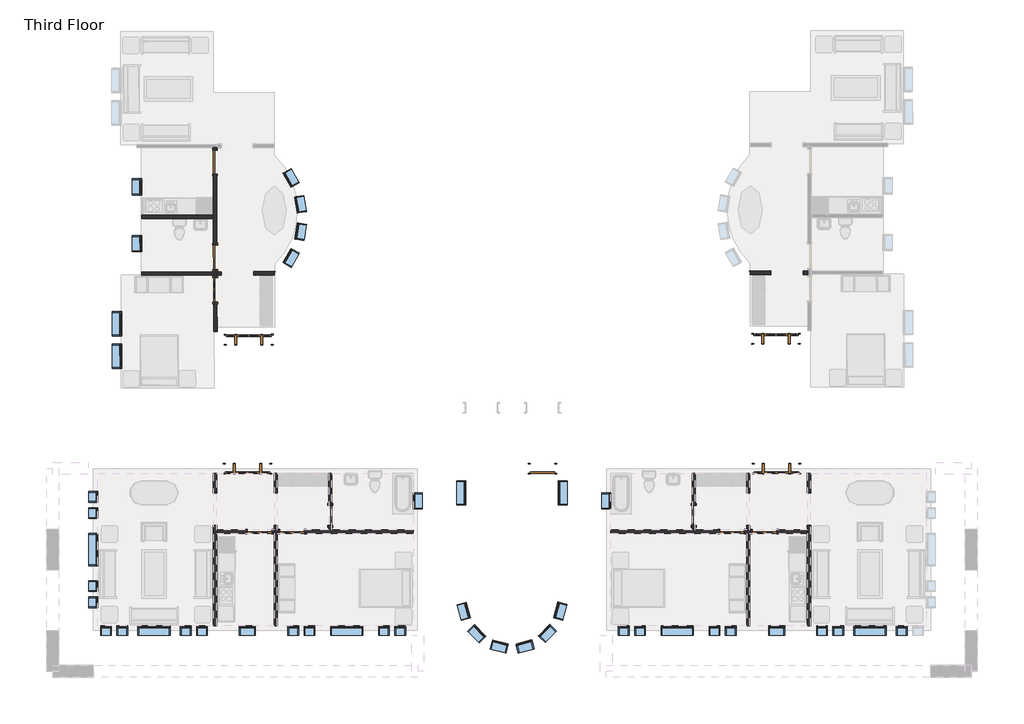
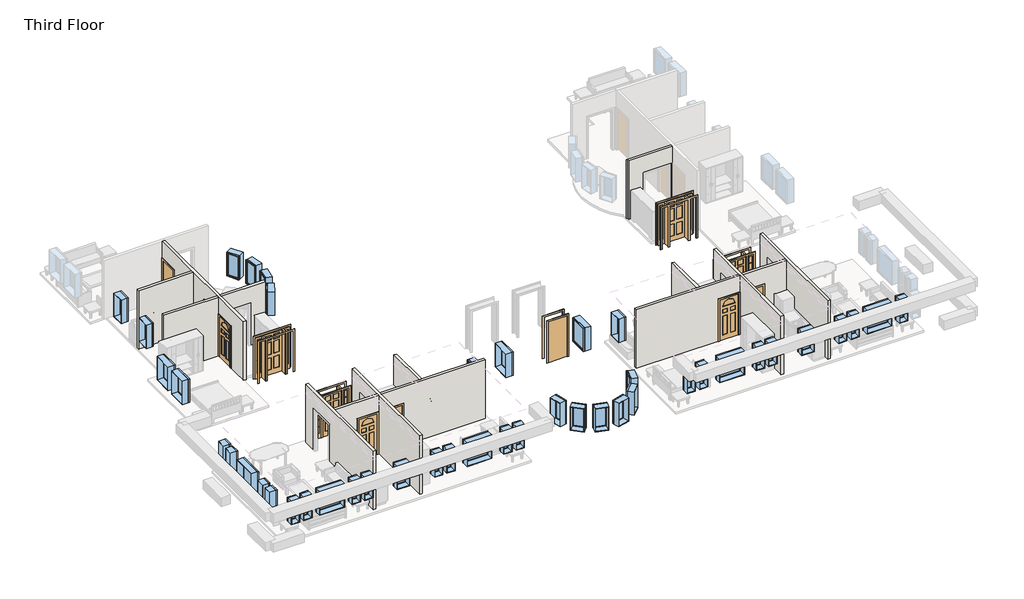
# One storey, part 1 of 5: 44 windows, 15 walls, 14 doors.
"""IFC4 building model written with IfcOpenShell, lengths in millimetres."""

from ifc_helpers import new_model, si_unit, frame, origin, place, context, project, spatial, polyline, circle_curve, outline, extrude, faceted_brep, transform, mapped, element, save
from ifc_brep_helpers import plane_surface, cylinder_surface, advanced_brep
from components import door_829da954, door_2e3b4da2, door_4d6c7550, door_e36758a9, door_cc5399a4, door_a1797ceb, door_a3eb833a, door_dba5aa2e, door_ffdb1193, window_da97879f, window_d61ef850, window_60baf983, window_ed80354a, window_0e2fc6ce, window_6eb97611, window_d89bf842

model = new_model("IFC4")

# Units and contexts
model_context = context("Model", 3, world=origin())
ifc_project = project(units=[si_unit("LENGTHUNIT", "METRE", prefix="MILLI")], contexts=[model_context])

# Site, building, storey
site = spatial("IfcSite", under=ifc_project)
building = spatial("IfcBuilding", under=site)
storey = spatial("IfcBuildingStorey", under=building, Name="Third Floor", Elevation=6096.0)

# Doors
placement = place(None, origin())
door_shape = door_829da954(model_context)
element("IfcDoor", 1, ObjectType="Single-Decorative 2 : 36\" x 84\"", at=placement, inside=storey, context=model_context, shape_type="MappedRepresentation", body=[
    mapped(door_shape, transform((-6669.0589563, -30331.8808133, 6096.0), x_axis=(1.0, 0.0, 0.0), y_axis=(0.0, 1.0, 0.0), z_axis=(0.0, 0.0, 1.0))),
])
element("IfcDoor", 2, ObjectType="Single-Decorative 2 : 36\" x 84\"", at=placement, inside=storey, context=model_context, shape_type="MappedRepresentation", body=[
    mapped(door_shape, transform((-24420.4839563, -30331.8808133, 6096.0), x_axis=(1.0, 0.0, 0.0), y_axis=(0.0, 1.0, 0.0), z_axis=(0.0, 0.0, 1.0))),
])
door_2_shape = door_2e3b4da2(model_context)
element("IfcDoor", 3, ObjectType="Single-Decorative 2 : 36\" x 84\"", at=placement, inside=storey, context=model_context, shape_type="MappedRepresentation", body=[
    mapped(door_2_shape, transform((-5449.8589563, -30331.8808133, 6096.0), x_axis=(-1.0, 0.0, 0.0), y_axis=(0.0, -1.0, 0.0), z_axis=(0.0, 0.0, 1.0))),
])
element("IfcDoor", 4, ObjectType="Single-Decorative 2 : 36\" x 84\"", at=placement, inside=storey, context=model_context, shape_type="MappedRepresentation", body=[
    mapped(door_2_shape, transform((-23201.2839563, -30331.8808133, 6096.0), x_axis=(-1.0, 0.0, 0.0), y_axis=(0.0, -1.0, 0.0), z_axis=(0.0, 0.0, 1.0))),
])
element("IfcDoor", 5, ObjectType="Single-Decorative 2 : 36\" x 84\"", at=placement, inside=storey, context=model_context, shape_type="MappedRepresentation", body=[
    mapped(door_2_shape, transform((-26083.9222963, -21236.9710395, 6096.0), x_axis=(-0.002276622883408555, 0.9999974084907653, 0.0), y_axis=(-0.9999974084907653, -0.002276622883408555, 0.0), z_axis=(0.0, 0.0, 1.0))),
])
door_3_shape = door_4d6c7550(model_context)
element("IfcDoor", 6, ObjectType="Single-Flush : 30\" x 84\"", at=placement, inside=storey, context=model_context, shape_type="MappedRepresentation", body=[
    mapped(door_3_shape, transform((-21764.5964563, -29722.2808133, 6096.0), x_axis=(0.0, -1.0, 0.0), y_axis=(1.0, 0.0, 0.0), z_axis=(0.0, 0.0, 1.0))),
])
door_4_shape = door_e36758a9(model_context)
element("IfcDoor", 7, ObjectType="Single-Flush : 30\" x 84\"", at=placement, inside=storey, context=model_context, shape_type="MappedRepresentation", body=[
    mapped(door_4_shape, transform((-8105.7464563, -29722.2808133, 6096.0), x_axis=(0.0, -1.0, 0.0), y_axis=(1.0, 0.0, 0.0), z_axis=(0.0, 0.0, 1.0))),
])
door_5_shape = door_cc5399a4(model_context)
element("IfcDoor", 8, ObjectType="Single-Flush : 36\" x 84\"", at=placement, inside=storey, context=model_context, shape_type="MappedRepresentation", body=[
    mapped(door_5_shape, transform((-13792.1714563, -27958.5683133, 6096.0), x_axis=(1.0, 0.0, 0.0), y_axis=(0.0, 1.0, 0.0), z_axis=(0.0, 0.0, 1.0))),
])
door_6_shape = door_a1797ceb(model_context)
element("IfcDoor", 9, ObjectType="Single-Flush : 36\" x 84\"", at=placement, inside=storey, context=model_context, shape_type="MappedRepresentation", body=[
    mapped(door_6_shape, transform((-26094.8442239, -16439.5584721, 6096.0), x_axis=(-0.002276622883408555, 0.9999974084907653, 0.0), y_axis=(-0.9999974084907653, -0.002276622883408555, 0.0), z_axis=(0.0, 0.0, 1.0))),
])
door_7_shape = door_a3eb833a(model_context)
element("IfcDoor", 10, ObjectType="Single-Flush : 36\" x 84\"", at=placement, inside=storey, context=model_context, shape_type="MappedRepresentation", body=[
    mapped(door_7_shape, transform((-26086.697955, -20017.7741991, 6096.0), x_axis=(0.002276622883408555, -0.9999974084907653, 0.0), y_axis=(0.9999974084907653, 0.002276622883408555, 0.0), z_axis=(0.0, 0.0, 1.0))),
])
door_8_shape = door_dba5aa2e(model_context)
element("IfcDoor", 11, ObjectType="Single-Raised Panel with Sidelights : 36\" x 84\"", at=placement, inside=storey, context=model_context, shape_type="MappedRepresentation", body=[
    mapped(door_8_shape, transform((-24877.6839563, -27958.5683133, 6096.0), x_axis=(1.0, 0.0, 0.0), y_axis=(0.0, 1.0, 0.0), z_axis=(0.0, 0.0, 1.0))),
])
element("IfcDoor", 12, ObjectType="Single-Raised Panel with Sidelights : 36\" x 84\"", at=placement, inside=storey, context=model_context, shape_type="MappedRepresentation", body=[
    mapped(door_8_shape, transform((-5011.6902332, -23083.5536869, 6096.0), x_axis=(-0.9999997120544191, -0.0007588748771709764, 0.0), y_axis=(0.0007588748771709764, -0.9999997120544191, 0.0), z_axis=(0.0, 0.0, 1.0))),
])
door_9_shape = door_ffdb1193(model_context)
element("IfcDoor", 13, ObjectType="Single-Raised Panel with Sidelights : 36\" x 84\"", at=placement, inside=storey, context=model_context, shape_type="MappedRepresentation", body=[
    mapped(door_9_shape, transform((-4992.6589563, -27958.5683133, 6096.0), x_axis=(-1.0, 0.0, 0.0), y_axis=(0.0, -1.0, 0.0), z_axis=(0.0, 0.0, 1.0))),
])
element("IfcDoor", 14, ObjectType="Single-Raised Panel with Sidelights : 36\" x 84\"", at=placement, inside=storey, context=model_context, shape_type="MappedRepresentation", body=[
    mapped(door_9_shape, transform((-24823.9341006, -23113.6237411, 6096.0), x_axis=(0.9999974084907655, 0.002276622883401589, 0.0), y_axis=(-0.002276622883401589, 0.9999974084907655, 0.0), z_axis=(0.0, 0.0, 1.0))),
])

# Walls
element("IfcWall", 15, ObjectType="Interior - 5\" Partition (2-hr)", at=placement, inside=storey, context=model_context, shape_type="Brep", body=[
    faceted_brep([(-3836.9589563, -33878.3558133, 6096.0), (-3836.9589563, -30395.3808133, 6096.0), (-3836.9589563, -30268.3808133, 6096.0), (-3836.9589563, -30092.1683133, 6096.0), (-3709.9589563, -30092.1683133, 6096.0), (-3709.9589563, -33878.3558133, 6096.0), (-3836.9589563, -28872.9683133, 6096.0), (-3836.9589563, -28134.7808133, 6096.0), (-3709.9589563, -28134.7808133, 6096.0), (-3709.9589563, -28872.9683133, 6096.0), (-3709.9589563, -33878.3558133, 9144.0), (-3709.9589563, -28134.7808133, 9144.0), (-3836.9589563, -28134.7808133, 9144.0), (-3836.9589563, -30268.3808133, 9144.0), (-3836.9589563, -30395.3808133, 9144.0), (-3836.9589563, -33878.3558133, 9144.0), (-3709.9589563, -30092.1683133, 8229.6), (-3709.9589563, -28872.9683133, 8229.6), (-3836.9589563, -30092.1683133, 8229.6), (-3836.9589563, -28872.9683133, 8229.6)], [[[0, 1, 2, 3, 4, 5]], [[6, 7, 8, 9]], [[10, 11, 12, 13, 14, 15]], [[5, 4, 16, 17, 9, 8, 11, 10]], [[18, 3, 2, 1, 0, 15, 14, 13, 12, 7, 6, 19]], [[5, 10, 15, 0]], [[11, 8, 7, 12]], [[9, 17, 19, 6]], [[16, 4, 3, 18]], [[17, 16, 18, 19]]]),
])
element("IfcWall", 16, ObjectType="Interior - 5\" Partition (2-hr)", at=placement, inside=storey, context=model_context, shape_type="Brep", body=[
    faceted_brep([(-5995.9589563, -28134.7808133, 6096.0), (-5995.9589563, -28872.9683133, 6096.0), (-6122.9589563, -28872.9683133, 6096.0), (-6122.9589563, -28134.7808133, 6096.0), (-5995.9589563, -30092.1683133, 6096.0), (-5995.9589563, -30268.3808133, 6096.0), (-5995.9589563, -30395.3808133, 6096.0), (-5995.9589563, -33878.3558133, 6096.0), (-6122.9589563, -33878.3558133, 6096.0), (-6122.9589563, -30395.3808133, 6096.0), (-6122.9589563, -30268.3808133, 6096.0), (-6122.9589563, -30092.1683133, 6096.0), (-5995.9589563, -33878.3558133, 9144.0), (-5995.9589563, -30395.3808133, 9144.0), (-5995.9589563, -30268.3808133, 9144.0), (-5995.9589563, -28134.7808133, 9144.0), (-6122.9589563, -28134.7808133, 9144.0), (-6122.9589563, -30268.3808133, 9144.0), (-6122.9589563, -30395.3808133, 9144.0), (-6122.9589563, -33878.3558133, 9144.0), (-5995.9589563, -28872.9683133, 8229.6), (-5995.9589563, -30092.1683133, 8229.6), (-6122.9589563, -28872.9683133, 8229.6), (-6122.9589563, -30092.1683133, 8229.6)], [[[0, 1, 2, 3]], [[4, 5, 6, 7, 8, 9, 10, 11]], [[12, 13, 14, 15, 16, 17, 18, 19]], [[20, 1, 0, 15, 14, 13, 12, 7, 6, 5, 4, 21]], [[3, 2, 22, 23, 11, 10, 9, 8, 19, 18, 17, 16]], [[7, 12, 19, 8]], [[15, 0, 3, 16]], [[11, 23, 21, 4]], [[22, 2, 1, 20]], [[23, 22, 20, 21]]]),
])
element("IfcWall", 17, ObjectType="Interior - 5\" Partition (2-hr)", at=placement, inside=storey, context=model_context, shape_type="Brep", body=[
    faceted_brep([(-6122.9589563, -30395.3808133, 6096.0), (-6211.8589563, -30395.3808133, 6096.0), (-6211.8589563, -30268.3808133, 6096.0), (-6122.9589563, -30268.3808133, 6096.0), (-7126.2589563, -30395.3808133, 6096.0), (-11217.2464563, -30395.3808133, 6096.0), (-11217.2464563, -30268.3808133, 6096.0), (-8169.2464563, -30268.3808133, 6096.0), (-8042.2464563, -30268.3808133, 6096.0), (-7126.2589563, -30268.3808133, 6096.0), (-11217.2464563, -30395.3808133, 9144.0), (-6122.9589563, -30395.3808133, 9144.0), (-6122.9589563, -30268.3808133, 9144.0), (-8042.2464563, -30268.3808133, 9144.0), (-8169.2464563, -30268.3808133, 9144.0), (-11217.2464563, -30268.3808133, 9144.0), (-6211.8589563, -30395.3808133, 8229.6), (-7126.2589563, -30395.3808133, 8229.6), (-6211.8589563, -30268.3808133, 8229.6), (-7126.2589563, -30268.3808133, 8229.6)], [[[0, 1, 2, 3]], [[4, 5, 6, 7, 8, 9]], [[10, 11, 12, 13, 14, 15]], [[16, 1, 0, 11, 10, 5, 4, 17]], [[3, 2, 18, 19, 9, 8, 7, 6, 15, 14, 13, 12]], [[11, 0, 3, 12]], [[5, 10, 15, 6]], [[18, 2, 1, 16]], [[19, 18, 16, 17]], [[9, 19, 17, 4]]]),
])
element("IfcWall", 18, ObjectType="Interior - 5\" Partition (2-hr)", at=placement, inside=storey, context=model_context, shape_type="SweptSolid", body=[
    extrude(outline(polyline([(-30103.2808133, 8229.6), (-30103.2808133, 6096.0), (-30268.3808133, 6096.0), (-30268.3808133, 9144.0), (-28134.7808133, 9144.0), (-28134.7808133, 6096.0), (-29341.2808133, 6096.0), (-29341.2808133, 8229.6), (-30103.2808133, 8229.6)])), frame((-8169.2464563, 0.0, 0.0), z_axis=(1.0, 0.0, 0.0), x_axis=(0.0, 1.0, 0.0)), (0.0, 0.0, 1.0), 127.0),
])
element("IfcWall", 19, ObjectType="Interior - 5\" Partition (2-hr)", at=placement, inside=storey, context=model_context, shape_type="SweptSolid", body=[
    extrude(outline(polyline([(6096.0, -5995.9589563), (6096.0, -5907.0589563), (8229.6, -5907.0589563), (8229.6, -4992.6589563), (6096.0, -4992.6589563), (6096.0, -3836.9589563), (9144.0, -3836.9589563), (9144.0, -5995.9589563), (6096.0, -5995.9589563)])), frame((0.0, -30395.3808133, 0.0), z_axis=(0.0, 1.0, 0.0), x_axis=(0.0, 0.0, 1.0)), (0.0, 0.0, 1.0), 127.0),
])
element("IfcWall", 20, ObjectType="Interior - 5\" Partition (2-hr)", at=placement, inside=storey, context=model_context, shape_type="Brep", body=[
    faceted_brep([(-26160.3839563, -33878.3558133, 6096.0), (-26160.3839563, -30092.1683133, 6096.0), (-26033.3839563, -30092.1683133, 6096.0), (-26033.3839563, -30268.3808133, 6096.0), (-26033.3839563, -30395.3808133, 6096.0), (-26033.3839563, -33878.3558133, 6096.0), (-26160.3839563, -28872.9683133, 6096.0), (-26160.3839563, -28134.7808133, 6096.0), (-26033.3839563, -28134.7808133, 6096.0), (-26033.3839563, -28872.9683133, 6096.0), (-26033.3839563, -33878.3558133, 9144.0), (-26033.3839563, -30395.3808133, 9144.0), (-26033.3839563, -30268.3808133, 9144.0), (-26033.3839563, -28134.7808133, 9144.0), (-26160.3839563, -28134.7808133, 9144.0), (-26160.3839563, -33878.3558133, 9144.0), (-26033.3839563, -30092.1683133, 8229.6), (-26033.3839563, -28872.9683133, 8229.6), (-26160.3839563, -30092.1683133, 8229.6), (-26160.3839563, -28872.9683133, 8229.6)], [[[0, 1, 2, 3, 4, 5]], [[6, 7, 8, 9]], [[10, 11, 12, 13, 14, 15]], [[5, 4, 3, 2, 16, 17, 9, 8, 13, 12, 11, 10]], [[18, 1, 0, 15, 14, 7, 6, 19]], [[5, 10, 15, 0]], [[13, 8, 7, 14]], [[9, 17, 19, 6]], [[16, 2, 1, 18]], [[17, 16, 18, 19]]]),
])
element("IfcWall", 21, ObjectType="Interior - 5\" Partition (2-hr)", at=placement, inside=storey, context=model_context, shape_type="Brep", body=[
    faceted_brep([(-23747.3839563, -28134.7808133, 6096.0), (-23747.3839563, -28872.9683133, 6096.0), (-23874.3839563, -28872.9683133, 6096.0), (-23874.3839563, -28134.7808133, 6096.0), (-23747.3839563, -30092.1683133, 6096.0), (-23747.3839563, -30268.3808133, 6096.0), (-23747.3839563, -30395.3808133, 6096.0), (-23747.3839563, -33878.3558133, 6096.0), (-23874.3839563, -33878.3558133, 6096.0), (-23874.3839563, -30395.3808133, 6096.0), (-23874.3839563, -30268.3808133, 6096.0), (-23874.3839563, -30092.1683133, 6096.0), (-23747.3839563, -33878.3558133, 9144.0), (-23747.3839563, -30395.3808133, 9144.0), (-23747.3839563, -30268.3808133, 9144.0), (-23747.3839563, -28134.7808133, 9144.0), (-23874.3839563, -28134.7808133, 9144.0), (-23874.3839563, -30268.3808133, 9144.0), (-23874.3839563, -30395.3808133, 9144.0), (-23874.3839563, -33878.3558133, 9144.0), (-23747.3839563, -28872.9683133, 8229.6), (-23747.3839563, -30092.1683133, 8229.6), (-23874.3839563, -28872.9683133, 8229.6), (-23874.3839563, -30092.1683133, 8229.6)], [[[0, 1, 2, 3]], [[4, 5, 6, 7, 8, 9, 10, 11]], [[12, 13, 14, 15, 16, 17, 18, 19]], [[20, 1, 0, 15, 14, 13, 12, 7, 6, 5, 4, 21]], [[3, 2, 22, 23, 11, 10, 9, 8, 19, 18, 17, 16]], [[7, 12, 19, 8]], [[15, 0, 3, 16]], [[11, 23, 21, 4]], [[22, 2, 1, 20]], [[23, 22, 20, 21]]]),
])
element("IfcWall", 22, ObjectType="Interior - 5\" Partition (2-hr)", at=placement, inside=storey, context=model_context, shape_type="Brep", body=[
    faceted_brep([(-23747.3839563, -30268.3808133, 6096.0), (-23658.4839563, -30268.3808133, 6096.0), (-23658.4839563, -30395.3808133, 6096.0), (-23747.3839563, -30395.3808133, 6096.0), (-22744.0839563, -30268.3808133, 6096.0), (-21828.0964563, -30268.3808133, 6096.0), (-21701.0964563, -30268.3808133, 6096.0), (-18653.0964563, -30268.3808133, 6096.0), (-18653.0964563, -30395.3808133, 6096.0), (-22744.0839563, -30395.3808133, 6096.0), (-18653.0964563, -30268.3808133, 9144.0), (-21701.0964563, -30268.3808133, 9144.0), (-21828.0964563, -30268.3808133, 9144.0), (-23747.3839563, -30268.3808133, 9144.0), (-23747.3839563, -30395.3808133, 9144.0), (-18653.0964563, -30395.3808133, 9144.0), (-23658.4839563, -30268.3808133, 8229.6), (-22744.0839563, -30268.3808133, 8229.6), (-23658.4839563, -30395.3808133, 8229.6), (-22744.0839563, -30395.3808133, 8229.6)], [[[0, 1, 2, 3]], [[4, 5, 6, 7, 8, 9]], [[10, 11, 12, 13, 14, 15]], [[16, 1, 0, 13, 12, 11, 10, 7, 6, 5, 4, 17]], [[3, 2, 18, 19, 9, 8, 15, 14]], [[13, 0, 3, 14]], [[7, 10, 15, 8]], [[18, 2, 1, 16]], [[19, 18, 16, 17]], [[9, 19, 17, 4]]]),
])
element("IfcWall", 23, ObjectType="Interior - 5\" Partition (2-hr)", at=placement, inside=storey, context=model_context, shape_type="SweptSolid", body=[
    extrude(outline(polyline([(-30103.2808133, 8229.6), (-30103.2808133, 6096.0), (-30268.3808133, 6096.0), (-30268.3808133, 9144.0), (-28134.7808133, 9144.0), (-28134.7808133, 6096.0), (-29341.2808133, 6096.0), (-29341.2808133, 8229.6), (-30103.2808133, 8229.6)])), frame((-21828.0964563, 0.0, 0.0), z_axis=(1.0, 0.0, 0.0), x_axis=(0.0, 1.0, 0.0)), (0.0, 0.0, 1.0), 127.0),
])
element("IfcWall", 24, ObjectType="Interior - 5\" Partition (2-hr)", at=placement, inside=storey, context=model_context, shape_type="SweptSolid", body=[
    extrude(outline(polyline([(8229.6, -23963.2839563), (6096.0, -23963.2839563), (6096.0, -23874.3839563), (9144.0, -23874.3839563), (9144.0, -26033.3839563), (6096.0, -26033.3839563), (6096.0, -24877.6839563), (8229.6, -24877.6839563), (8229.6, -23963.2839563)])), frame((0.0, -30395.3808133, 0.0), z_axis=(0.0, 1.0, 0.0), x_axis=(0.0, 0.0, 1.0)), (0.0, 0.0, 1.0), 127.0),
])
element("IfcWall", 25, ObjectType="Interior - 5\" Partition (2-hr)", at=placement, inside=storey, context=model_context, shape_type="AdvancedBrep", body=[
    advanced_brep(
    [(-6021.7945834, -20531.7031387, 6096.0), (-5205.7147944, -20531.0838361, 6096.0), (-5205.6184172, -20658.0837995, 6096.0), (-5980.3181942, -20658.6716999, 6096.0), (-5980.3834569, -20572.6724285, 6096.0), (-3986.5151454, -20530.1586159, 6096.0), (-3821.415193, -20530.0333256, 6096.0), (-3821.3188158, -20657.033289, 6096.0), (-3986.4187683, -20657.1585793, 6096.0), (-3821.415193, -20530.0333256, 9144.0), (-6021.7945834, -20531.7031387, 9144.0), (-5980.3834569, -20572.6724285, 9144.0), (-5980.3181942, -20658.6716999, 9144.0), (-3821.3188158, -20657.033289, 9144.0), (-5205.7147944, -20531.0838361, 8229.6), (-3986.5151454, -20530.1586159, 8229.6), (-5205.6184172, -20658.0837995, 8229.6), (-3986.4187683, -20657.1585793, 8229.6)],
    [
        (0, 1),
        (1, 2),
        (2, 3),
        (3, 4),
        (4, 0, circle_curve(frame((-3981.4527218, -18510.7705488, 6096.0), z_axis=(0.0, 0.0, -1.0), x_axis=(-0.6994578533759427, -0.714673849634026, 0.0)), 2871.7875)),
        (5, 6),
        (6, 7),
        (7, 8),
        (8, 5),
        (9, 10),
        (10, 11, circle_curve(frame((-3981.4527218, -18510.7705488, 9144.0), z_axis=(0.0, 0.0, 1.0), x_axis=(-0.6994578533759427, -0.714673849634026, 0.0)), 2871.7875)),
        (11, 12),
        (12, 13),
        (13, 9),
        (14, 1),
        (0, 10),
        (9, 6),
        (5, 15),
        (15, 14),
        (2, 16),
        (16, 17),
        (17, 8),
        (7, 13),
        (12, 3),
        (4, 11),
        (17, 15),
        (14, 16),
    ],
    [
        plane_surface(frame((-3757.9152112, -20529.9851371, 6096.0), z_axis=(0.0, 0.0, -1.0000000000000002), x_axis=(0.0007588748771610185, -0.9999997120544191, 0.0))),
        plane_surface(frame((-6205.2060584, -20531.8423251, 9144.0), z_axis=(0.0, 0.0, 1.0000000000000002), x_axis=(0.000758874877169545, -0.9999997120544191, 0.0))),
        plane_surface(frame((-3757.9152112, -20529.9851371, 6096.0), z_axis=(-0.0007588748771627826, 0.9999997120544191, 0.0), x_axis=(-0.9999997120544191, -0.0007588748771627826, 0.0))),
        plane_surface(frame((-3757.8188341, -20656.9851005, 6096.0), z_axis=(0.0007588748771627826, -0.9999997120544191, 0.0), x_axis=(0.9999997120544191, 0.0007588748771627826, 0.0))),
        plane_surface(frame((-3819.8514744, -22590.6077323, 6096.0), z_axis=(0.999999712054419, 0.0007588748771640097, 0.0), x_axis=(0.0007588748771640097, -0.999999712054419, 0.0))),
        cylinder_surface(frame((-3981.4527218, -18510.7705488, 5943.6), z_axis=(0.0, 0.0, 1.0), x_axis=(-0.6994578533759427, -0.714673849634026, 0.0)), 2871.7875),
        plane_surface(frame((-5979.4304559, -21828.4798931, 5943.6), z_axis=(-0.999999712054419, -0.0007588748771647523, 0.0), x_axis=(0.0007588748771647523, -0.999999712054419, 0.0))),
        plane_surface(frame((-3986.4187683, -20657.1585793, 8229.6), z_axis=(-0.9999997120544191, -0.0007588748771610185, 0.0), x_axis=(-0.0007588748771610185, 0.9999997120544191, 0.0))),
        plane_surface(frame((-5205.6184172, -20658.0837995, 6096.0), z_axis=(0.9999997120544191, 0.0007588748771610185, 0.0), x_axis=(-0.0007588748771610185, 0.9999997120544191, 0.0))),
        plane_surface(frame((-5205.6184172, -20658.0837995, 8229.6), z_axis=(0.0, 0.0, -1.0000000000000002), x_axis=(-0.0007588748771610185, 0.9999997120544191, 0.0))),
    ],
    [
        (0, [[1, 2, 3, 4, 5]]),
        (0, [[6, 7, 8, 9]]),
        (1, [[10, 11, 12, 13, 14]]),
        (2, [[15, -1, 16, -10, 17, -6, 18, 19]]),
        (3, [[-3, 20, 21, 22, -8, 23, -13, 24]]),
        (4, [[-17, -14, -23, -7]]),
        (5, [[-16, -5, 25, -11]]),
        (6, [[-4, -24, -12, -25]]),
        (7, [[-22, 26, -18, -9]]),
        (8, [[-20, -2, -15, 27]]),
        (9, [[-21, -27, -19, -26]]),
    ],
),
])
element("IfcWall", 26, ObjectType="Interior - 5\" Partition (2-hr)", at=placement, inside=storey, context=model_context, shape_type="Brep", body=[
    faceted_brep([(-26016.8625342, -22800.5099217, 6096.0), (-26016.8625342, -22800.5099217, 9144.0), (-26143.862205, -22800.7990528, 9144.0), (-26143.862205, -22800.7990528, 6096.0), (-26032.5876522, -15893.3153218, 6096.0), (-26032.3852604, -15982.2150914, 6096.0), (-26159.3849313, -15982.5042225, 6096.0), (-26159.5873231, -15893.6044529, 6096.0), (-26022.1572475, -20474.8284487, 6096.0), (-26021.9548558, -20563.7282183, 6096.0), (-26021.6657247, -20690.7278892, 6096.0), (-26021.4633329, -20779.6276588, 6096.0), (-26148.4630038, -20779.9167899, 6096.0), (-26148.6653955, -20691.0170203, 6096.0), (-26148.9545266, -20564.0173494, 6096.0), (-26149.1569184, -20475.1175798, 6096.0), (-26151.2386624, -19560.7199495, 6096.0), (-26153.5227981, -18557.4225496, 6096.0), (-26153.8119292, -18430.4228787, 6096.0), (-26157.3031873, -16896.9018528, 6096.0), (-26030.3035165, -16896.6127217, 6096.0), (-26024.2389915, -19560.4308184, 6096.0), (-26019.3815889, -21694.0252892, 6096.0), (-26146.3812598, -21694.3144203, 6096.0), (-26021.6657247, -20690.7278892, 9144.0), (-26021.9548558, -20563.7282183, 9144.0), (-26032.5876522, -15893.3153218, 9144.0), (-26159.5873231, -15893.6044529, 9144.0), (-26153.8119292, -18430.4228787, 9144.0), (-26153.5227981, -18557.4225496, 9144.0), (-26148.9545266, -20564.0173494, 9144.0), (-26148.6653955, -20691.0170203, 9144.0), (-26021.4633329, -20779.6276588, 8229.6), (-26022.1572475, -20474.8284487, 8229.6), (-26024.2389915, -19560.4308184, 8229.6), (-26030.3035165, -16896.6127217, 8229.6), (-26032.3852604, -15982.2150914, 8229.6), (-26019.3815889, -21694.0252892, 8229.6), (-26148.4630038, -20779.9167899, 8229.6), (-26146.3812598, -21694.3144203, 8229.6), (-26159.3849313, -15982.5042225, 8229.6), (-26157.3031873, -16896.9018528, 8229.6), (-26151.2386624, -19560.7199495, 8229.6), (-26149.1569184, -20475.1175798, 8229.6)], [[[0, 1, 2, 3]], [[4, 5, 6, 7]], [[8, 9, 10, 11, 12, 13, 14, 15]], [[16, 17, 18, 19, 20, 21]], [[22, 0, 3, 23]], [[1, 24, 25, 26, 27, 28, 29, 30, 31, 2]], [[32, 11, 10, 9, 8, 33, 34, 21, 20, 35, 36, 5, 4, 26, 25, 24, 1, 0, 22, 37]], [[15, 14, 13, 12, 38, 39, 23, 3, 2, 31, 30, 29, 28, 27, 7, 6, 40, 41, 19, 18, 17, 16, 42, 43]], [[26, 4, 7, 27]], [[40, 6, 5, 36]], [[41, 40, 36, 35]], [[19, 41, 35, 20]], [[33, 8, 15, 43]], [[34, 33, 43, 42]], [[21, 34, 42, 16]], [[38, 12, 11, 32]], [[39, 38, 32, 37]], [[23, 39, 37, 22]]]),
])
element("IfcWall", 27, ObjectType="Interior - 5\" Partition (2-hr)", at=placement, inside=storey, context=model_context, shape_type="SweptSolid", body=[
    extrude(outline(polyline([(-26148.6653955, -20691.0170203), (-28844.2334099, -20697.153828), (-28844.522541, -20570.1541572), (-26148.9545266, -20564.0173494), (-26148.6653955, -20691.0170203)])), frame((0.0, 0.0, 6096.0), z_axis=(0.0, 0.0, 1.0), x_axis=(1.0, 0.0, 0.0)), (0.0, 0.0, 1.0), 3048.0),
])
element("IfcWall", 28, ObjectType="Interior - 5\" Partition (2-hr)", at=placement, inside=storey, context=model_context, shape_type="SweptSolid", body=[
    extrude(outline(polyline([(-28849.3799436, -18436.5596864), (-26153.8119292, -18430.4228787), (-26153.5227981, -18557.4225496), (-28849.0908125, -18563.5593573), (-28849.3799436, -18436.5596864)])), frame((0.0, 0.0, 6096.0), z_axis=(0.0, 0.0, 1.0), x_axis=(1.0, 0.0, 0.0)), (0.0, 0.0, 1.0), 3048.0),
])
element("IfcWall", 29, ObjectType="Interior - 5\" Partition (2-hr)", at=placement, inside=storey, context=model_context, shape_type="AdvancedBrep", body=[
    advanced_brep(
    [(-23862.6713197, -20685.8126604, 6096.0), (-24637.3693121, -20687.5763602, 6096.0), (-24637.6584432, -20560.5766893, 6096.0), (-23821.5805341, -20558.7187828, 6096.0), (-23862.8671077, -20599.8135871, 6096.0), (-25856.5661525, -20690.3520188, 6096.0), (-26021.6657247, -20690.7278892, 6096.0), (-26021.9548558, -20563.7282183, 6096.0), (-25856.8552836, -20563.3523479, 6096.0), (-26021.6657247, -20690.7278892, 9144.0), (-23862.6713197, -20685.8126604, 9144.0), (-23862.8671077, -20599.8135871, 9144.0), (-23821.5805341, -20558.7187828, 9144.0), (-26021.9548558, -20563.7282183, 9144.0), (-24637.3693121, -20687.5763602, 8229.6), (-25856.5661525, -20690.3520188, 8229.6), (-24637.6584432, -20560.5766893, 8229.6), (-25856.8552836, -20563.3523479, 8229.6)],
    [
        (0, 1),
        (1, 2),
        (2, 3),
        (3, 4, circle_curve(frame((-25868.0475266, -18543.9889514, 6096.0), z_axis=(0.0, 0.0, -1.0), x_axis=(0.7158693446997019, 0.6982342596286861, 0.0)), 2871.7875)),
        (4, 0),
        (5, 6),
        (6, 7),
        (7, 8),
        (8, 5),
        (9, 10),
        (10, 11),
        (11, 12, circle_curve(frame((-25868.0475266, -18543.9889514, 9144.0), z_axis=(0.0, 0.0, 1.0), x_axis=(0.7158693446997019, 0.6982342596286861, 0.0)), 2871.7875)),
        (12, 13),
        (13, 9),
        (14, 1),
        (0, 10),
        (9, 6),
        (5, 15),
        (15, 14),
        (2, 16),
        (16, 17),
        (17, 8),
        (7, 13),
        (12, 3),
        (4, 11),
        (17, 15),
        (14, 16),
    ],
    [
        plane_surface(frame((-26085.1655601, -20690.8724548, 6096.0), z_axis=(0.0, 0.0, -1.0000000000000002), x_axis=(-0.002276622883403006, 0.9999974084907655, 0.0))),
        plane_surface(frame((-23637.8803504, -20685.3008948, 9144.0), z_axis=(0.0, 0.0, 1.0000000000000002), x_axis=(-0.002276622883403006, 0.9999974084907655, 0.0))),
        plane_surface(frame((-26085.1655601, -20690.8724548, 6096.0), z_axis=(0.0022766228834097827, -0.9999974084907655, 0.0), x_axis=(0.9999974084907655, 0.0022766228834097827, 0.0))),
        plane_surface(frame((-26085.4546912, -20563.8727839, 6096.0), z_axis=(-0.0022766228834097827, 0.9999974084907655, 0.0), x_axis=(-0.9999974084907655, -0.0022766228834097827, 0.0))),
        plane_surface(frame((-26017.2637036, -22624.2978783, 6096.0), z_axis=(-0.9999974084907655, -0.002276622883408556, 0.0), x_axis=(-0.002276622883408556, 0.9999974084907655, 0.0))),
        plane_surface(frame((-23860.0081069, -21855.6181588, 5943.6), z_axis=(0.9999974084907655, 0.002276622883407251, 0.0), x_axis=(-0.002276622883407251, 0.9999974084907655, 0.0))),
        cylinder_surface(frame((-25868.0475266, -18543.9889514, 5943.6), z_axis=(0.0, 0.0, 1.0), x_axis=(0.7158693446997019, 0.6982342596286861, 0.0)), 2871.7875),
        plane_surface(frame((-25856.8552836, -20563.3523479, 8229.6), z_axis=(0.9999974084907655, 0.002276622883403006, 0.0), x_axis=(0.002276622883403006, -0.9999974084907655, 0.0))),
        plane_surface(frame((-24637.6584432, -20560.5766893, 6096.0), z_axis=(-0.9999974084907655, -0.002276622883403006, 0.0), x_axis=(0.002276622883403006, -0.9999974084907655, 0.0))),
        plane_surface(frame((-24637.6584432, -20560.5766893, 8229.6), z_axis=(0.0, 0.0, -1.0000000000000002), x_axis=(0.002276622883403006, -0.9999974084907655, 0.0))),
    ],
    [
        (0, [[1, 2, 3, 4, 5]]),
        (0, [[6, 7, 8, 9]]),
        (1, [[10, 11, 12, 13, 14]]),
        (2, [[15, -1, 16, -10, 17, -6, 18, 19]]),
        (3, [[-3, 20, 21, 22, -8, 23, -13, 24]]),
        (4, [[-17, -14, -23, -7]]),
        (5, [[-16, -5, 25, -11]]),
        (6, [[-4, -24, -12, -25]]),
        (7, [[-22, 26, -18, -9]]),
        (8, [[-20, -2, -15, 27]]),
        (9, [[-21, -27, -19, -26]]),
    ],
),
])

# Windows
window_shape = window_da97879f(model_context)
element("IfcWindow", 30, ObjectType="Fixed : 16\" x 48\"", at=placement, inside=storey, context=model_context, shape_type="MappedRepresentation", body=[
    mapped(window_shape, transform((-6681.7589563, -34054.5683133, 6096.0), x_axis=(1.0, 0.0, 0.0), y_axis=(0.0, 1.0, 0.0), z_axis=(0.0, 0.0, 1.0))),
])
element("IfcWindow", 31, ObjectType="Fixed : 16\" x 48\"", at=placement, inside=storey, context=model_context, shape_type="MappedRepresentation", body=[
    mapped(window_shape, transform((-7291.3589563, -34054.5683133, 6096.0), x_axis=(1.0, 0.0, 0.0), y_axis=(0.0, 1.0, 0.0), z_axis=(0.0, 0.0, 1.0))),
])
element("IfcWindow", 32, ObjectType="Fixed : 16\" x 48\"", at=placement, inside=storey, context=model_context, shape_type="MappedRepresentation", body=[
    mapped(window_shape, transform((-255.5589563, -34054.5683133, 6096.0), x_axis=(1.0, 0.0, 0.0), y_axis=(0.0, 1.0, 0.0), z_axis=(0.0, 0.0, 1.0))),
])
element("IfcWindow", 33, ObjectType="Fixed : 16\" x 48\"", at=placement, inside=storey, context=model_context, shape_type="MappedRepresentation", body=[
    mapped(window_shape, transform((-19099.1839563, -34054.5683133, 6096.0), x_axis=(1.0, 0.0, 0.0), y_axis=(0.0, 1.0, 0.0), z_axis=(0.0, 0.0, 1.0))),
])
element("IfcWindow", 34, ObjectType="Fixed : 16\" x 48\"", at=placement, inside=storey, context=model_context, shape_type="MappedRepresentation", body=[
    mapped(window_shape, transform((-19708.7839563, -34054.5683133, 6096.0), x_axis=(1.0, 0.0, 0.0), y_axis=(0.0, 1.0, 0.0), z_axis=(0.0, 0.0, 1.0))),
])
element("IfcWindow", 35, ObjectType="Fixed : 16\" x 48\"", at=placement, inside=storey, context=model_context, shape_type="MappedRepresentation", body=[
    mapped(window_shape, transform((-26541.3839563, -34054.5683133, 6096.0), x_axis=(1.0, 0.0, 0.0), y_axis=(0.0, 1.0, 0.0), z_axis=(0.0, 0.0, 1.0))),
])
element("IfcWindow", 36, ObjectType="Fixed : 16\" x 48\"", at=placement, inside=storey, context=model_context, shape_type="MappedRepresentation", body=[
    mapped(window_shape, transform((-27150.9839563, -34054.5683133, 6096.0), x_axis=(1.0, 0.0, 0.0), y_axis=(0.0, 1.0, 0.0), z_axis=(0.0, 0.0, 1.0))),
])
element("IfcWindow", 37, ObjectType="Fixed : 16\" x 48\"", at=placement, inside=storey, context=model_context, shape_type="MappedRepresentation", body=[
    mapped(window_shape, transform((-30668.8839563, -33025.8683133, 6096.0), x_axis=(0.0, -1.0, 0.0), y_axis=(1.0, 0.0, 0.0), z_axis=(0.0, 0.0, 1.0))),
])
element("IfcWindow", 38, ObjectType="Fixed : 16\" x 48\"", at=placement, inside=storey, context=model_context, shape_type="MappedRepresentation", body=[
    mapped(window_shape, transform((-30668.8839563, -32416.2683133, 6096.0), x_axis=(0.0, -1.0, 0.0), y_axis=(1.0, 0.0, 0.0), z_axis=(0.0, 0.0, 1.0))),
])
window_2_shape = window_d61ef850(model_context)
element("IfcWindow", 39, ObjectType="Fixed : 16\" x 48\"", at=placement, inside=storey, context=model_context, shape_type="MappedRepresentation", body=[
    mapped(window_2_shape, transform((-10771.1589563, -34054.5683133, 6096.0), x_axis=(-1.0, 0.0, 0.0), y_axis=(0.0, -1.0, 0.0), z_axis=(0.0, 0.0, 1.0))),
])
element("IfcWindow", 40, ObjectType="Fixed : 16\" x 48\"", at=placement, inside=storey, context=model_context, shape_type="MappedRepresentation", body=[
    mapped(window_2_shape, transform((-10161.5589563, -34054.5683133, 6096.0), x_axis=(-1.0, 0.0, 0.0), y_axis=(0.0, -1.0, 0.0), z_axis=(0.0, 0.0, 1.0))),
])
element("IfcWindow", 41, ObjectType="Fixed : 16\" x 48\"", at=placement, inside=storey, context=model_context, shape_type="MappedRepresentation", body=[
    mapped(window_2_shape, transform((-3328.9589563, -34054.5683133, 6096.0), x_axis=(-1.0, 0.0, 0.0), y_axis=(0.0, -1.0, 0.0), z_axis=(0.0, 0.0, 1.0))),
])
element("IfcWindow", 42, ObjectType="Fixed : 16\" x 48\"", at=placement, inside=storey, context=model_context, shape_type="MappedRepresentation", body=[
    mapped(window_2_shape, transform((-2719.3589563, -34054.5683133, 6096.0), x_axis=(-1.0, 0.0, 0.0), y_axis=(0.0, -1.0, 0.0), z_axis=(0.0, 0.0, 1.0))),
])
element("IfcWindow", 43, ObjectType="Fixed : 16\" x 48\"", at=placement, inside=storey, context=model_context, shape_type="MappedRepresentation", body=[
    mapped(window_2_shape, transform((-23188.5839563, -34054.5683133, 6096.0), x_axis=(-1.0, 0.0, 0.0), y_axis=(0.0, -1.0, 0.0), z_axis=(0.0, 0.0, 1.0))),
])
element("IfcWindow", 44, ObjectType="Fixed : 16\" x 48\"", at=placement, inside=storey, context=model_context, shape_type="MappedRepresentation", body=[
    mapped(window_2_shape, transform((-22578.9839563, -34054.5683133, 6096.0), x_axis=(-1.0, 0.0, 0.0), y_axis=(0.0, -1.0, 0.0), z_axis=(0.0, 0.0, 1.0))),
])
element("IfcWindow", 45, ObjectType="Fixed : 16\" x 48\"", at=placement, inside=storey, context=model_context, shape_type="MappedRepresentation", body=[
    mapped(window_2_shape, transform((-30224.3839563, -34054.5683133, 6096.0), x_axis=(-1.0, 0.0, 0.0), y_axis=(0.0, -1.0, 0.0), z_axis=(0.0, 0.0, 1.0))),
])
element("IfcWindow", 46, ObjectType="Fixed : 16\" x 48\"", at=placement, inside=storey, context=model_context, shape_type="MappedRepresentation", body=[
    mapped(window_2_shape, transform((-29614.7839563, -34054.5683133, 6096.0), x_axis=(-1.0, 0.0, 0.0), y_axis=(0.0, -1.0, 0.0), z_axis=(0.0, 0.0, 1.0))),
])
element("IfcWindow", 47, ObjectType="Fixed : 16\" x 48\"", at=placement, inside=storey, context=model_context, shape_type="MappedRepresentation", body=[
    mapped(window_2_shape, transform((-30668.8839563, -28987.2683133, 6096.0), x_axis=(0.0, 1.0, 0.0), y_axis=(-1.0, 0.0, 0.0), z_axis=(0.0, 0.0, 1.0))),
])
element("IfcWindow", 48, ObjectType="Fixed : 16\" x 48\"", at=placement, inside=storey, context=model_context, shape_type="MappedRepresentation", body=[
    mapped(window_2_shape, transform((-30668.8839563, -29596.8683133, 6096.0), x_axis=(0.0, 1.0, 0.0), y_axis=(-1.0, 0.0, 0.0), z_axis=(0.0, 0.0, 1.0))),
])
window_3_shape = window_60baf983(model_context)
element("IfcWindow", 49, ObjectType="Fixed : 24\" x 48\"", at=placement, inside=storey, context=model_context, shape_type="MappedRepresentation", body=[
    mapped(window_3_shape, transform((-24839.5839563, -34054.5683133, 6096.0), x_axis=(1.0, 0.0, 0.0), y_axis=(0.0, 1.0, 0.0), z_axis=(0.0, 0.0, 1.0))),
])
element("IfcWindow", 50, ObjectType="Fixed : 24\" x 48\"", at=placement, inside=storey, context=model_context, shape_type="MappedRepresentation", body=[
    mapped(window_3_shape, transform((-18476.8839563, -29139.6683133, 6096.0), x_axis=(0.0, 1.0, 0.0), y_axis=(-1.0, 0.0, 0.0), z_axis=(0.0, 0.0, 1.0))),
])
element("IfcWindow", 51, ObjectType="Fixed : 24\" x 48\"", at=placement, inside=storey, context=model_context, shape_type="MappedRepresentation", body=[
    mapped(window_3_shape, transform((-23212.0202277, -20010.0927579, 6096.0), x_axis=(0.4942132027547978, 0.8693407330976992, 0.0), y_axis=(-0.8693407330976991, 0.49421320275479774, 0.0), z_axis=(0.0, 0.0, 0.9999999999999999))),
])
element("IfcWindow", 52, ObjectType="Fixed : 24\" x 48\"", at=placement, inside=storey, context=model_context, shape_type="MappedRepresentation", body=[
    mapped(window_3_shape, transform((-22870.9575118, -19014.5129434, 6096.0), x_axis=(0.1674882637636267, 0.9858740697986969, 0.0), y_axis=(-0.9858740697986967, 0.16748826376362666, 0.0), z_axis=(0.0, 0.0, 0.9999999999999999))),
])
window_4_shape = window_ed80354a(model_context)
element("IfcWindow", 53, ObjectType="Fixed : 24\" x 48\"", at=placement, inside=storey, context=model_context, shape_type="MappedRepresentation", body=[
    mapped(window_4_shape, transform((-5030.7589563, -34054.5683133, 6096.0), x_axis=(-1.0, 0.0, 0.0), y_axis=(0.0, -1.0, 0.0), z_axis=(0.0, 0.0, 1.0))),
])
element("IfcWindow", 54, ObjectType="Fixed : 24\" x 48\"", at=placement, inside=storey, context=model_context, shape_type="MappedRepresentation", body=[
    mapped(window_4_shape, transform((-11393.4589563, -29139.6683133, 6096.0), x_axis=(0.0, 1.0, 0.0), y_axis=(-1.0, 0.0, 0.0), z_axis=(0.0, 0.0, 1.0))),
])
element("IfcWindow", 55, ObjectType="Fixed : 24\" x 48\"", at=placement, inside=storey, context=model_context, shape_type="MappedRepresentation", body=[
    mapped(window_4_shape, transform((-16757.5848795, -33290.1635131, 6096.0), x_axis=(-0.26176149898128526, 0.9651325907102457, 0.0), y_axis=(-0.9651325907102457, -0.26176149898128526, 0.0), z_axis=(0.0, 0.0, 1.0))),
])
element("IfcWindow", 56, ObjectType="Fixed : 24\" x 48\"", at=placement, inside=storey, context=model_context, shape_type="MappedRepresentation", body=[
    mapped(window_4_shape, transform((-16286.0301771, -34140.4392215, 6096.0), x_axis=(-0.7092584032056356, 0.7049485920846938, 0.0), y_axis=(-0.7049485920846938, -0.7092584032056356, 0.0), z_axis=(0.0, 0.0, 1.0))),
])
element("IfcWindow", 57, ObjectType="Fixed : 24\" x 48\"", at=placement, inside=storey, context=model_context, shape_type="MappedRepresentation", body=[
    mapped(window_4_shape, transform((-15452.5139714, -34641.0222339, 6096.0), x_axis=(-0.966710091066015, 0.2558741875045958, 0.0), y_axis=(-0.2558741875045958, -0.966710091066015, 0.0), z_axis=(0.0, 0.0, 1.0))),
])
element("IfcWindow", 58, ObjectType="Fixed : 24\" x 48\"", at=placement, inside=storey, context=model_context, shape_type="MappedRepresentation", body=[
    mapped(window_4_shape, transform((-14480.3762565, -34657.7817365, 6096.0), x_axis=(-0.9651325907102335, -0.2617614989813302, 0.0), y_axis=(0.2617614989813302, -0.9651325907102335, 0.0), z_axis=(0.0, 0.0, 1.0))),
])
element("IfcWindow", 59, ObjectType="Fixed : 24\" x 48\"", at=placement, inside=storey, context=model_context, shape_type="MappedRepresentation", body=[
    mapped(window_4_shape, transform((-13630.1005482, -34186.2270341, 6096.0), x_axis=(-0.7049485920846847, -0.7092584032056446, 0.0), y_axis=(0.7092584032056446, -0.7049485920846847, 0.0), z_axis=(0.0, 0.0, 1.0))),
])
element("IfcWindow", 60, ObjectType="Fixed : 24\" x 48\"", at=placement, inside=storey, context=model_context, shape_type="MappedRepresentation", body=[
    mapped(window_4_shape, transform((-13129.5175357, -33352.7108284, 6096.0), x_axis=(-0.2558741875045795, -0.9667100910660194, 0.0), y_axis=(0.9667100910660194, -0.2558741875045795, 0.0), z_axis=(0.0, 0.0, 1.0))),
])
element("IfcWindow", 61, ObjectType="Fixed : 24\" x 48\"", at=placement, inside=storey, context=model_context, shape_type="MappedRepresentation", body=[
    mapped(window_4_shape, transform((-29023.2466013, -19467.1620422, 6096.0), x_axis=(-0.0022766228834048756, 0.9999974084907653, 0.0), y_axis=(-0.9999974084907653, -0.0022766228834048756, 0.0), z_axis=(0.0, 0.0, 1.0))),
])
element("IfcWindow", 62, ObjectType="Fixed : 24\" x 48\"", at=placement, inside=storey, context=model_context, shape_type="MappedRepresentation", body=[
    mapped(window_4_shape, transform((-29028.1040039, -17333.5675714, 6096.0), x_axis=(-0.0022766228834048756, 0.9999974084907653, 0.0), y_axis=(-0.9999974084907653, -0.0022766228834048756, 0.0), z_axis=(0.0, 0.0, 1.0))),
])
element("IfcWindow", 63, ObjectType="Fixed : 24\" x 48\"", at=placement, inside=storey, context=model_context, shape_type="MappedRepresentation", body=[
    mapped(window_4_shape, transform((-23218.7232738, -17065.8068288, 6096.0), x_axis=(0.4981663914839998, -0.8670814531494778, 0.0), y_axis=(0.8670814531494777, 0.49816639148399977, 0.0), z_axis=(0.0, 0.0, 0.9999999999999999))),
])
element("IfcWindow", 64, ObjectType="Fixed : 24\" x 48\"", at=placement, inside=storey, context=model_context, shape_type="MappedRepresentation", body=[
    mapped(window_4_shape, transform((-22873.1309855, -18059.8233848, 6096.0), x_axis=(0.17197544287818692, -0.9851012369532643, 0.0), y_axis=(0.9851012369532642, 0.1719754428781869, 0.0), z_axis=(0.0, 0.0, 0.9999999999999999))),
])
window_5_shape = window_0e2fc6ce(model_context)
element("IfcWindow", 65, ObjectType="Fixed : 36\" x 48\"", at=placement, inside=storey, context=model_context, shape_type="MappedRepresentation", body=[
    mapped(window_5_shape, transform((-16840.1714563, -28834.8683133, 6096.0), x_axis=(0.0, 1.0, 0.0), y_axis=(-1.0, 0.0, 0.0), z_axis=(0.0, 0.0, 1.0))),
])
element("IfcWindow", 66, ObjectType="Fixed : 36\" x 48\"", at=placement, inside=storey, context=model_context, shape_type="MappedRepresentation", body=[
    mapped(window_5_shape, transform((-13030.1714563, -28911.0683133, 6096.0), x_axis=(0.0, -1.0, 0.0), y_axis=(1.0, 0.0, 0.0), z_axis=(0.0, 0.0, 1.0))),
])
element("IfcWindow", 67, ObjectType="Fixed : 36\" x 48\"", at=placement, inside=storey, context=model_context, shape_type="MappedRepresentation", body=[
    mapped(window_5_shape, transform((-29775.6201749, -23696.3983732, 6096.0), x_axis=(-0.0022766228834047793, 0.9999974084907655, 0.0), y_axis=(-0.9999974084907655, -0.0022766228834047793, 0.0), z_axis=(0.0, 0.0, 1.0))),
])
element("IfcWindow", 68, ObjectType="Fixed : 36\" x 48\"", at=placement, inside=storey, context=model_context, shape_type="MappedRepresentation", body=[
    mapped(window_5_shape, transform((-29778.3958335, -22477.2015328, 6096.0), x_axis=(-0.0022766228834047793, 0.9999974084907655, 0.0), y_axis=(-0.9999974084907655, -0.0022766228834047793, 0.0), z_axis=(0.0, 0.0, 1.0))),
])
window_6_shape = window_6eb97611(model_context)
element("IfcWindow", 69, ObjectType="Fixed : 48\" x 48\"", at=placement, inside=storey, context=model_context, shape_type="MappedRepresentation", body=[
    mapped(window_6_shape, transform((-21105.7839563, -34054.5683133, 6096.0), x_axis=(1.0, 0.0, 0.0), y_axis=(0.0, 1.0, 0.0), z_axis=(0.0, 0.0, 1.0))),
])
element("IfcWindow", 70, ObjectType="Fixed : 48\" x 48\"", at=placement, inside=storey, context=model_context, shape_type="MappedRepresentation", body=[
    mapped(window_6_shape, transform((-28344.7839563, -34054.5683133, 6096.0), x_axis=(1.0, 0.0, 0.0), y_axis=(0.0, 1.0, 0.0), z_axis=(0.0, 0.0, 1.0))),
])
element("IfcWindow", 71, ObjectType="Fixed : 48\" x 48\"", at=placement, inside=storey, context=model_context, shape_type="MappedRepresentation", body=[
    mapped(window_6_shape, transform((-30668.8839563, -31044.6683133, 6096.0), x_axis=(0.0, -1.0, 0.0), y_axis=(1.0, 0.0, 0.0), z_axis=(0.0, 0.0, 1.0))),
])
window_7_shape = window_d89bf842(model_context)
element("IfcWindow", 72, ObjectType="Fixed : 48\" x 48\"", at=placement, inside=storey, context=model_context, shape_type="MappedRepresentation", body=[
    mapped(window_7_shape, transform((-8764.5589563, -34054.5683133, 6096.0), x_axis=(-1.0, 0.0, 0.0), y_axis=(0.0, -1.0, 0.0), z_axis=(0.0, 0.0, 1.0))),
])
element("IfcWindow", 73, ObjectType="Fixed : 48\" x 48\"", at=placement, inside=storey, context=model_context, shape_type="MappedRepresentation", body=[
    mapped(window_7_shape, transform((-1525.5589563, -34054.5683133, 6096.0), x_axis=(-1.0, 0.0, 0.0), y_axis=(0.0, -1.0, 0.0), z_axis=(0.0, 0.0, 1.0))),
])

save(model, "model.ifc")
